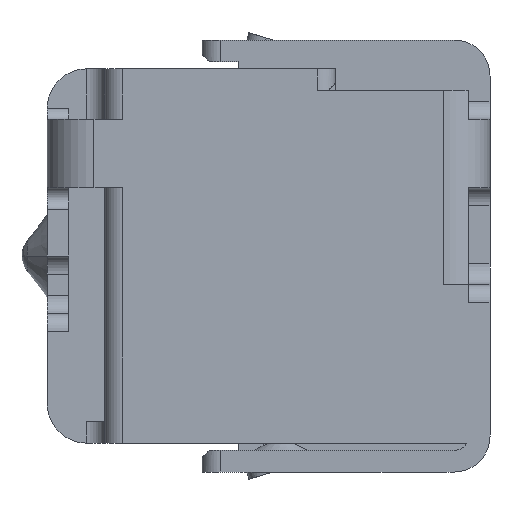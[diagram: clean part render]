
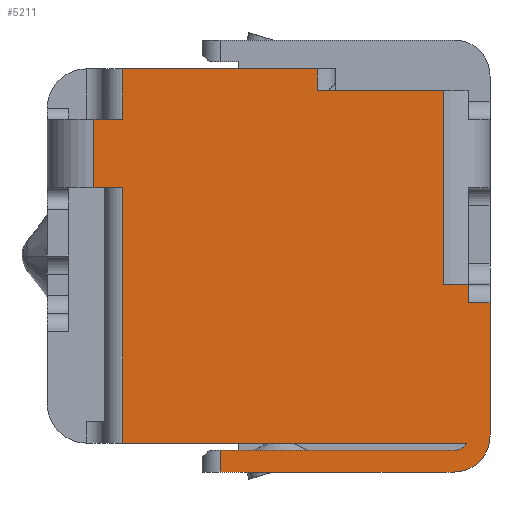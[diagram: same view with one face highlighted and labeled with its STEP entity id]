
A CAD part, left-side view. The second image highlights one B-rep face of the part: STEP entity #5211.
In plain terms, the highlighted planar face has unit normal (-1, 0, 0).
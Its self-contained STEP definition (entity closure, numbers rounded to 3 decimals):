
#239=DIRECTION('',(0.,-1.,0.));
#240=VECTOR('',#239,0.65);
#241=CARTESIAN_POINT('',(-0.6,0.75,-0.6));
#242=LINE('',#241,#240);
#627=DIRECTION('',(0.,-1.,0.));
#628=VECTOR('',#627,0.08);
#629=CARTESIAN_POINT('',(-0.6,1.1,0.19));
#630=LINE('',#629,#628);
#644=DIRECTION('',(0.,0.,-1.));
#645=VECTOR('',#644,0.71);
#646=CARTESIAN_POINT('',(-0.6,1.02,0.19));
#647=LINE('',#646,#645);
#1195=DIRECTION('',(0.,0.,1.));
#1196=VECTOR('',#1195,0.54);
#1197=CARTESIAN_POINT('',(-0.6,0.13,-0.08));
#1198=LINE('',#1197,#1196);
#1199=DIRECTION('',(0.,-1.,0.));
#1200=VECTOR('',#1199,0.07);
#1201=CARTESIAN_POINT('',(-0.6,0.13,-0.08));
#1202=LINE('',#1201,#1200);
#1203=DIRECTION('',(0.,0.,-1.));
#1204=VECTOR('',#1203,0.05);
#1205=CARTESIAN_POINT('',(-0.6,0.06,-0.08));
#1206=LINE('',#1205,#1204);
#1207=CARTESIAN_POINT('',(-0.6,0.1,-0.5));
#1208=DIRECTION('',(1.,0.,0.));
#1209=DIRECTION('',(0.,-1.,0.));
#1210=AXIS2_PLACEMENT_3D('',#1207,#1208,#1209);
#1212=DIRECTION('',(0.,-1.,0.));
#1213=VECTOR('',#1212,0.65);
#1214=CARTESIAN_POINT('',(-0.6,0.75,-0.54));
#1215=LINE('',#1214,#1213);
#1216=CARTESIAN_POINT('',(-0.6,0.1,-0.5));
#1217=DIRECTION('',(-1.,0.,0.));
#1218=DIRECTION('',(0.,0.,-1.));
#1219=AXIS2_PLACEMENT_3D('',#1216,#1217,#1218);
#1221=DIRECTION('',(0.,1.,0.));
#1222=VECTOR('',#1221,0.955);
#1223=CARTESIAN_POINT('',(-0.6,0.065,-0.52));
#1224=LINE('',#1223,#1222);
#1225=DIRECTION('',(0.,-1.,0.));
#1226=VECTOR('',#1225,0.08);
#1227=CARTESIAN_POINT('',(-0.6,1.1,0.38));
#1228=LINE('',#1227,#1226);
#1243=DIRECTION('',(0.,1.,0.));
#1244=VECTOR('',#1243,0.06);
#1245=CARTESIAN_POINT('',(-0.6,0.,-0.13));
#1246=LINE('',#1245,#1244);
#1272=DIRECTION('',(0.,0.,1.));
#1273=VECTOR('',#1272,0.37);
#1274=CARTESIAN_POINT('',(-0.6,0.,-0.5));
#1275=LINE('',#1274,#1273);
#1330=DIRECTION('',(0.,0.,-1.));
#1331=VECTOR('',#1330,0.06);
#1332=CARTESIAN_POINT('',(-0.6,0.75,-0.54));
#1333=LINE('',#1332,#1331);
#1366=DIRECTION('',(0.,0.,-1.));
#1367=VECTOR('',#1366,0.19);
#1368=CARTESIAN_POINT('',(-0.6,1.1,0.38));
#1369=LINE('',#1368,#1367);
#1435=DIRECTION('',(0.,0.,-1.));
#1436=VECTOR('',#1435,0.14);
#1437=CARTESIAN_POINT('',(-0.6,1.02,0.52));
#1438=LINE('',#1437,#1436);
#1448=DIRECTION('',(0.,1.,0.));
#1449=VECTOR('',#1448,0.54);
#1450=CARTESIAN_POINT('',(-0.6,0.48,0.52));
#1451=LINE('',#1450,#1449);
#1517=DIRECTION('',(0.,1.,0.));
#1518=VECTOR('',#1517,0.35);
#1519=CARTESIAN_POINT('',(-0.6,0.13,0.46));
#1520=LINE('',#1519,#1518);
#1674=DIRECTION('',(0.,0.,1.));
#1675=VECTOR('',#1674,0.06);
#1676=CARTESIAN_POINT('',(-0.6,0.48,0.46));
#1677=LINE('',#1676,#1675);
#2758=CARTESIAN_POINT('',(-0.6,0.,-0.5));
#2759=VERTEX_POINT('',#2758);
#2760=CARTESIAN_POINT('',(-0.6,0.,-0.13));
#2761=VERTEX_POINT('',#2760);
#2811=CARTESIAN_POINT('',(-0.6,0.1,-0.6));
#2813=VERTEX_POINT('',#2811);
#2826=CARTESIAN_POINT('',(-0.6,0.75,-0.6));
#2827=VERTEX_POINT('',#2826);
#2840=CARTESIAN_POINT('',(-0.6,0.75,-0.54));
#2841=CARTESIAN_POINT('',(-0.6,0.1,-0.54));
#2842=VERTEX_POINT('',#2840);
#2843=VERTEX_POINT('',#2841);
#2906=CARTESIAN_POINT('',(-0.6,1.02,-0.52));
#2907=VERTEX_POINT('',#2906);
#3027=CARTESIAN_POINT('',(-0.6,0.48,0.52));
#3029=VERTEX_POINT('',#3027);
#3030=CARTESIAN_POINT('',(-0.6,1.02,0.52));
#3031=VERTEX_POINT('',#3030);
#3281=CARTESIAN_POINT('',(-0.6,0.48,0.46));
#3283=VERTEX_POINT('',#3281);
#3285=CARTESIAN_POINT('',(-0.6,1.1,0.19));
#3286=VERTEX_POINT('',#3285);
#3303=CARTESIAN_POINT('',(-0.6,1.1,0.38));
#3304=CARTESIAN_POINT('',(-0.6,1.02,0.38));
#3305=VERTEX_POINT('',#3303);
#3306=VERTEX_POINT('',#3304);
#3307=CARTESIAN_POINT('',(-0.6,1.02,0.19));
#3309=VERTEX_POINT('',#3307);
#3313=CARTESIAN_POINT('',(-0.6,0.065,-0.52));
#3315=VERTEX_POINT('',#3313);
#3318=CARTESIAN_POINT('',(-0.6,0.06,-0.13));
#3320=VERTEX_POINT('',#3318);
#3433=CARTESIAN_POINT('',(-0.6,0.13,-0.08));
#3434=CARTESIAN_POINT('',(-0.6,0.13,0.46));
#3435=VERTEX_POINT('',#3433);
#3436=VERTEX_POINT('',#3434);
#3445=CARTESIAN_POINT('',(-0.6,0.06,-0.08));
#3446=VERTEX_POINT('',#3445);
#5175=CARTESIAN_POINT('',(-0.6,0.051,-0.549));
#5176=DIRECTION('',(-1.,0.,0.));
#5177=DIRECTION('',(0.,0.,-1.));
#5178=AXIS2_PLACEMENT_3D('',#5175,#5176,#5177);
#5179=PLANE('',#5178);
#5180=ORIENTED_EDGE('',*,*,#4413,.F.);
#5182=ORIENTED_EDGE('',*,*,#5181,.T.);
#5183=ORIENTED_EDGE('',*,*,#4335,.T.);
#5185=ORIENTED_EDGE('',*,*,#5184,.F.);
#5187=ORIENTED_EDGE('',*,*,#5186,.F.);
#5188=ORIENTED_EDGE('',*,*,#3784,.T.);
#5189=ORIENTED_EDGE('',*,*,#3813,.F.);
#5191=ORIENTED_EDGE('',*,*,#5190,.F.);
#5192=ORIENTED_EDGE('',*,*,#5094,.T.);
#5193=ORIENTED_EDGE('',*,*,#5168,.T.);
#5194=ORIENTED_EDGE('',*,*,#4533,.T.);
#5195=ORIENTED_EDGE('',*,*,#4469,.F.);
#5196=ORIENTED_EDGE('',*,*,#4444,.F.);
#5198=ORIENTED_EDGE('',*,*,#5197,.F.);
#5200=ORIENTED_EDGE('',*,*,#5199,.T.);
#5202=ORIENTED_EDGE('',*,*,#5201,.F.);
#5204=ORIENTED_EDGE('',*,*,#5203,.F.);
#5206=ORIENTED_EDGE('',*,*,#5205,.F.);
#5208=ORIENTED_EDGE('',*,*,#5207,.F.);
#5209=EDGE_LOOP('',(#5180,#5182,#5183,#5185,#5187,#5188,#5189,#5191,#5192,#5193,
#5194,#5195,#5196,#5198,#5200,#5202,#5204,#5206,#5208));
#5210=FACE_OUTER_BOUND('',#5209,.F.);
#5211=ADVANCED_FACE('',(#5210),#5179,.T.);
#1211=CIRCLE('',#1210,0.1);
#1220=CIRCLE('',#1219,0.04);
#3784=EDGE_CURVE('',#2759,#2813,#1211,.T.);
#3813=EDGE_CURVE('',#2827,#2813,#242,.T.);
#4335=EDGE_CURVE('',#3446,#3320,#1206,.T.);
#4413=EDGE_CURVE('',#3435,#3436,#1198,.T.);
#4444=EDGE_CURVE('',#3286,#3309,#630,.T.);
#4469=EDGE_CURVE('',#3309,#2907,#647,.T.);
#4533=EDGE_CURVE('',#3315,#2907,#1224,.T.);
#5094=EDGE_CURVE('',#2842,#2843,#1215,.T.);
#5168=EDGE_CURVE('',#2843,#3315,#1220,.T.);
#5181=EDGE_CURVE('',#3435,#3446,#1202,.T.);
#5184=EDGE_CURVE('',#2761,#3320,#1246,.T.);
#5186=EDGE_CURVE('',#2759,#2761,#1275,.T.);
#5190=EDGE_CURVE('',#2842,#2827,#1333,.T.);
#5197=EDGE_CURVE('',#3305,#3286,#1369,.T.);
#5199=EDGE_CURVE('',#3305,#3306,#1228,.T.);
#5201=EDGE_CURVE('',#3031,#3306,#1438,.T.);
#5203=EDGE_CURVE('',#3029,#3031,#1451,.T.);
#5205=EDGE_CURVE('',#3283,#3029,#1677,.T.);
#5207=EDGE_CURVE('',#3436,#3283,#1520,.T.);
